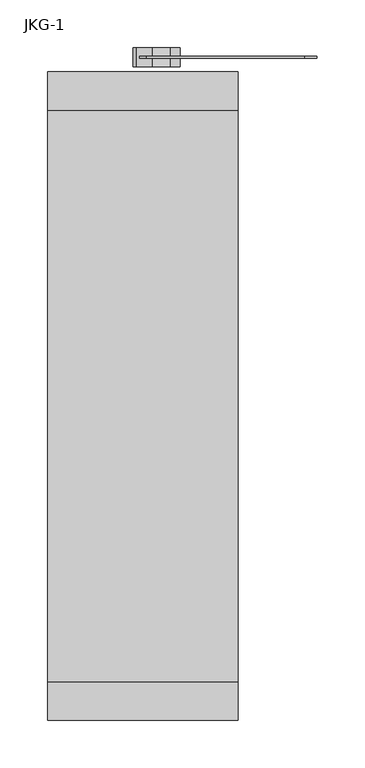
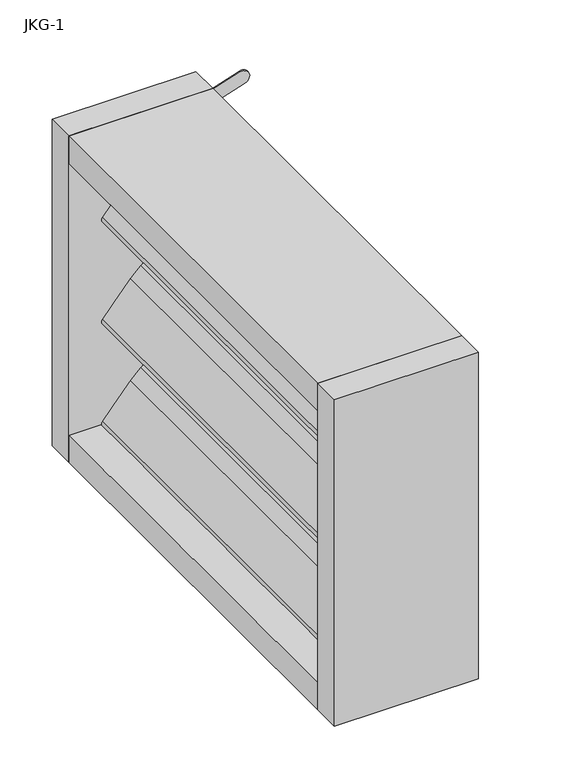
"""IFC4 building model written with IfcOpenShell, lengths in millimetres: air terminal geometry, NLRS_57_DUA_UN_Kleppenregisters_SMA : JKG-1."""

from ifc_helpers import new_model, si_unit, point, frame, frame_2d, origin, place, context, project, spatial, polyline, circle_curve, trimmed, segment, composite_curve, outline, extrude, source, transform, mapped, element, save


def jkg_1_cb74e8c6(model_context):
    return source(origin(), model_context, "Body", "SweptSolid", [
        extrude(outline(composite_curve([segment(trimmed(circle_curve(frame_2d((-49.4973372, -49.4973648)), 4.999996), [point((-45.9610744, -53.0321639))], [point((-53.049648, -45.9786934))], False, "CARTESIAN"), True, "CONTINUOUS"), segment(polyline([(-53.049648, -45.9786934), (-14.1419286, 0.0004479), (-0.0154442, 14.1269322), (45.9626644, 53.0337871)]), True, "CONTINUOUS"), segment(trimmed(circle_curve(frame_2d((49.4975998, 49.4976802)), 4.999982), [point((45.9626644, 53.0337871))], [point((53.0171376, 45.9462477))], False, "CARTESIAN"), True, "CONTINUOUS"), segment(polyline([(53.0171376, 45.9462477), (14.14505, 0.0032675), (-0.0154442, -14.1572268), (-45.9610744, -53.0321639)]), True, "CONTINUOUS")], self_intersect=False)), frame((0.0, -300.0, 0.0), z_axis=(0.0, 1.0, 0.0), x_axis=(0.0, 0.0, 1.0)), (0.0, 0.0, 1.0), 600.0),
        extrude(outline(composite_curve([segment(trimmed(circle_curve(frame_2d((100.5026628, -49.4973648)), 4.999996), [point((104.0389256, -53.0321639))], [point((96.950352, -45.9786934))], False, "CARTESIAN"), True, "CONTINUOUS"), segment(polyline([(96.950352, -45.9786934), (135.8580714, 0.0004479), (149.9845558, 14.1269322), (195.9626644, 53.0337871)]), True, "CONTINUOUS"), segment(trimmed(circle_curve(frame_2d((199.4975998, 49.4976802)), 4.999982), [point((195.9626644, 53.0337871))], [point((203.0171376, 45.9462477))], False, "CARTESIAN"), True, "CONTINUOUS"), segment(polyline([(203.0171376, 45.9462477), (164.14505, 0.0032675), (149.9845558, -14.1572268), (104.0389256, -53.0321639)]), True, "CONTINUOUS")], self_intersect=False)), frame((0.0, -300.0, 0.0), z_axis=(0.0, 1.0, 0.0), x_axis=(0.0, 0.0, 1.0)), (0.0, 0.0, 1.0), 600.0),
        extrude(outline(composite_curve([segment(trimmed(circle_curve(frame_2d((-199.4973372, -49.4973648)), 4.999996), [point((-195.9610744, -53.0321639))], [point((-203.049648, -45.9786934))], False, "CARTESIAN"), True, "CONTINUOUS"), segment(polyline([(-203.049648, -45.9786934), (-164.1419286, 0.0004479), (-150.0154442, 14.1269322), (-104.0373356, 53.0337871)]), True, "CONTINUOUS"), segment(trimmed(circle_curve(frame_2d((-100.5024002, 49.4976802)), 4.999982), [point((-104.0373356, 53.0337871))], [point((-96.9828624, 45.9462477))], False, "CARTESIAN"), True, "CONTINUOUS"), segment(polyline([(-96.9828624, 45.9462477), (-135.85495, 0.0032675), (-150.0154442, -14.1572268), (-195.9610744, -53.0321639)]), True, "CONTINUOUS")], self_intersect=False)), frame((0.0, -300.0, 0.0), z_axis=(0.0, 1.0, 0.0), x_axis=(0.0, 0.0, 1.0)), (0.0, 0.0, 1.0), 600.0),
        extrude(outline(composite_curve([segment(trimmed(circle_curve(frame_2d((124.9998951, 3.37e-05)), 73.9999961), [point((51.0141641, 1.4529722))], [point((108.3475382, 72.1020339))], False, "CARTESIAN"), True, "CONTINUOUS"), segment(trimmed(circle_curve(frame_2d((124.9999252, 7.85e-05)), 73.9999593), [point((108.3475382, 72.1020339))], [point((145.3314783, 71.1521826))], False, "CARTESIAN"), True, "CONTINUOUS"), segment(trimmed(circle_curve(frame_2d((124.999942, 7.97e-05)), 73.9999535), [point((145.3314783, 71.1521826))], [point((167.3121424, 60.7098055))], False, "CARTESIAN"), True, "CONTINUOUS"), segment(trimmed(circle_curve(frame_2d((164.423097, 56.6289407)), 5.0000041), [point((167.3121424, 60.7098055))], [point((169.1782961, 55.0835858))], False, "CARTESIAN"), True, "CONTINUOUS"), segment(polyline([(169.1782961, 55.0835858), (148.6084915, -8.2240179)]), True, "CONTINUOUS"), segment(trimmed(circle_curve(frame_2d((124.9999455, 7.2e-05)), 24.999982), [point((148.6084915, -8.2240179))], [point((117.7775519, -23.9339233))], False, "CARTESIAN"), True, "CONTINUOUS"), segment(polyline([(117.7775519, -23.9339233), (54.4687904, -3.3638083)]), True, "CONTINUOUS"), segment(trimmed(circle_curve(frame_2d((56.0138985, 1.3915564)), 5.0000852), [point((54.4687904, -3.3638083))], [point((51.6828691, -1.1070505))], False, "CARTESIAN"), True, "CONTINUOUS"), segment(trimmed(circle_curve(frame_2d((56.0138508, 1.3915954)), 5.0000634), [point((51.6828691, -1.1070505))], [point((51.0141641, 1.4529722))], False, "CARTESIAN"), True, "CONTINUOUS")], self_intersect=False)), frame((0.0, 306.0, 0.0), z_axis=(0.0, 1.0, 0.0), x_axis=(0.0, 0.0, 1.0)), (0.0, 0.0, 1.0), 9.75),
        extrude(outline(composite_curve([segment(trimmed(circle_curve(frame_2d((196.9708598, 172.9759519)), 10.0000277), [point((187.4737686, 176.1073753))], [point((206.4813972, 169.8856071))], False, "CARTESIAN"), True, "CONTINUOUS"), segment(polyline([(206.4813972, 169.8856071), (152.4022232, 3.451257)]), True, "CONTINUOUS"), segment(trimmed(circle_curve(frame_2d((142.8916535, 6.5416224)), 10.0000648), [point((152.4022232, 3.451257))], [point((133.3810801, 9.6319767))], False, "CARTESIAN"), True, "CONTINUOUS"), segment(polyline([(133.3810801, 9.6319767), (187.4737686, 176.1073753)]), True, "CONTINUOUS")], self_intersect=False)), frame((0.0, 354.514826, 0.0), z_axis=(0.0, 1.0, 0.0), x_axis=(0.0, 0.0, 1.0)), (0.0, 0.0, 1.0), 1.999998),
        extrude(outline(composite_curve([segment(trimmed(circle_curve(frame_2d((115.5858895, 44.639254)), 16.325228), [point((100.3081252, 38.8857344))], [point((116.2660419, 28.3282006))], True, "CARTESIAN"), True, "CONTINUOUS"), segment(trimmed(circle_curve(frame_2d((131.1379625, 21.59359)), 16.325716), [point((116.2660419, 28.3282006))], [point((120.0844243, 9.5790864))], True, "CARTESIAN"), True, "CONTINUOUS"), segment(trimmed(circle_curve(frame_2d((125.8382695, -5.698817)), 16.325473), [point((120.0844243, 9.5790864))], [point((109.5269565, -6.3786224))], True, "CARTESIAN"), True, "CONTINUOUS"), segment(trimmed(circle_curve(frame_2d((102.7929305, -21.250889)), 16.32579), [point((109.5269565, -6.3786224))], [point((90.7778563, -10.1978618))], True, "CARTESIAN"), True, "CONTINUOUS"), segment(trimmed(circle_curve(frame_2d((75.4999815, -15.951088)), 16.325228), [point((90.7778563, -10.1978618))], [point((74.8198297, 0.3599654))], True, "CARTESIAN"), True, "CONTINUOUS"), segment(trimmed(circle_curve(frame_2d((59.9479095, 7.094577)), 16.325716), [point((74.8198297, 0.3599654))], [point((71.0013641, 19.1091574))], True, "CARTESIAN"), True, "CONTINUOUS"), segment(trimmed(circle_curve(frame_2d((65.2476015, 34.387092)), 16.325473), [point((71.0013641, 19.1091574))], [point((81.5589131, 35.066933))], True, "CARTESIAN"), True, "CONTINUOUS"), segment(trimmed(circle_curve(frame_2d((88.2933025, 49.939035)), 16.32579), [point((81.5589131, 35.066933))], [point((100.3081252, 38.8857344))], True, "CARTESIAN"), True, "CONTINUOUS")], self_intersect=False)), frame((0.0, 345.514832, 0.0), z_axis=(0.0, 1.0, 0.0), x_axis=(0.0, 0.0, 1.0)), (0.0, 0.0, 1.0), 19.999986),
        extrude(outline(polyline([(100.0, 340.0), (100.0, 300.0), (-100.0, 300.0), (-100.0, 340.0), (100.0, 340.0)])), frame((0.0, 0.0, -240.0), z_axis=(0.0, 0.0, 1.0), x_axis=(1.0, 0.0, 0.0)), (0.0, 0.0, 1.0), 480.0),
        extrude(outline(polyline([(100.0, -340.0), (-100.0, -340.0), (-100.0, -300.0), (100.0, -300.0), (100.0, -340.0)])), frame((0.0, 0.0, -240.0), z_axis=(0.0, 0.0, 1.0), x_axis=(1.0, 0.0, 0.0)), (0.0, 0.0, 1.0), 480.0),
        extrude(outline(polyline([(-100.0, 300.0), (100.0, 300.0), (100.0, -300.0), (-100.0, -300.0), (-100.0, 300.0)])), frame((0.0, 0.0, -240.000246), z_axis=(0.0, 0.0, 1.0), x_axis=(1.0, 0.0, 0.0)), (0.0, 0.0, 1.0), 40.000246),
        extrude(outline(polyline([(-100.0, 300.0), (100.0, 300.0), (100.0, -300.0), (-100.0, -300.0), (-100.0, 300.0)])), frame((0.0, 0.0, 200.0), z_axis=(0.0, 0.0, 1.0), x_axis=(1.0, 0.0, 0.0)), (0.0, 0.0, 1.0), 39.999971),
    ])


if __name__ == "__main__":
    model = new_model("IFC4")
    model_context = context("Model", 3, world=origin())
    ifc_project = project(units=[si_unit("LENGTHUNIT", "METRE", prefix="MILLI")], contexts=[model_context])
    site = spatial("IfcSite", under=ifc_project)
    building = spatial("IfcBuilding", under=site)
    placement = place(None, origin())
    jkg_1_shape = jkg_1_cb74e8c6(model_context)
    element("IfcAirTerminal", 1, ObjectType="NLRS_57_DUA_UN_Kleppenregisters_SMA : JKG-1", at=placement, inside=building, context=model_context, shape_type="MappedRepresentation", body=[
        mapped(jkg_1_shape, transform((0.0, 0.0, 0.0), x_axis=(1.0, 0.0, 0.0), y_axis=(0.0, 1.0, 0.0), z_axis=(0.0, 0.0, 1.0))),
    ])
    save(model, "model.ifc")
